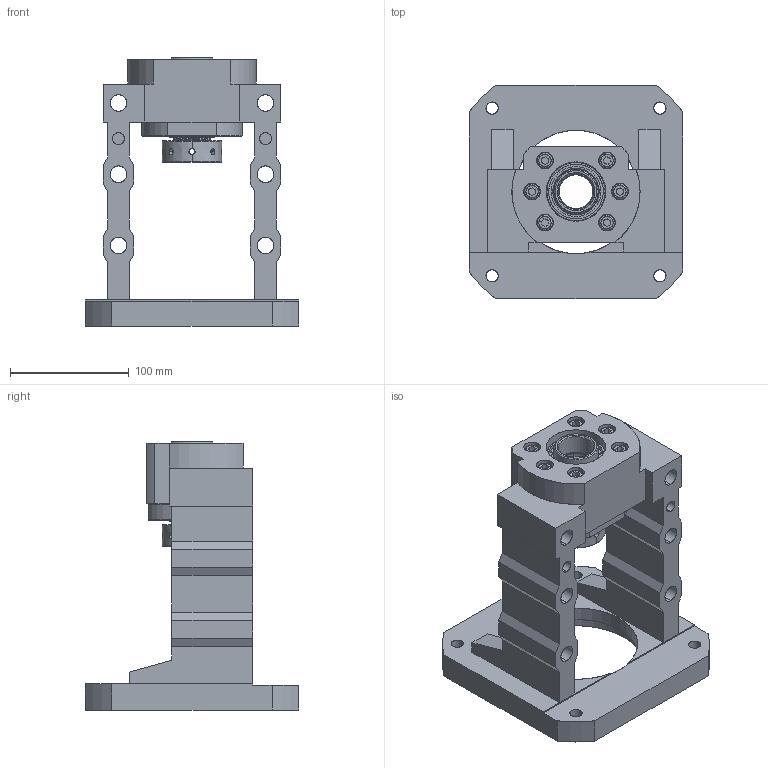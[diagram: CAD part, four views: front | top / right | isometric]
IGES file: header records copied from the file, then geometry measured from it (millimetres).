
Start section: SolidWorks IGES file using analytic representation for surfaces
Bounding box: 180 x 180 x 226 mm (x, y, z)
Surface area: 219220.4 mm2 (no closed solid volume)
Topology: 0 solids, 0 shells, 347 faces, 6242 edges, 6234 vertices
Faces by surface type: revolution 180, bspline 167
